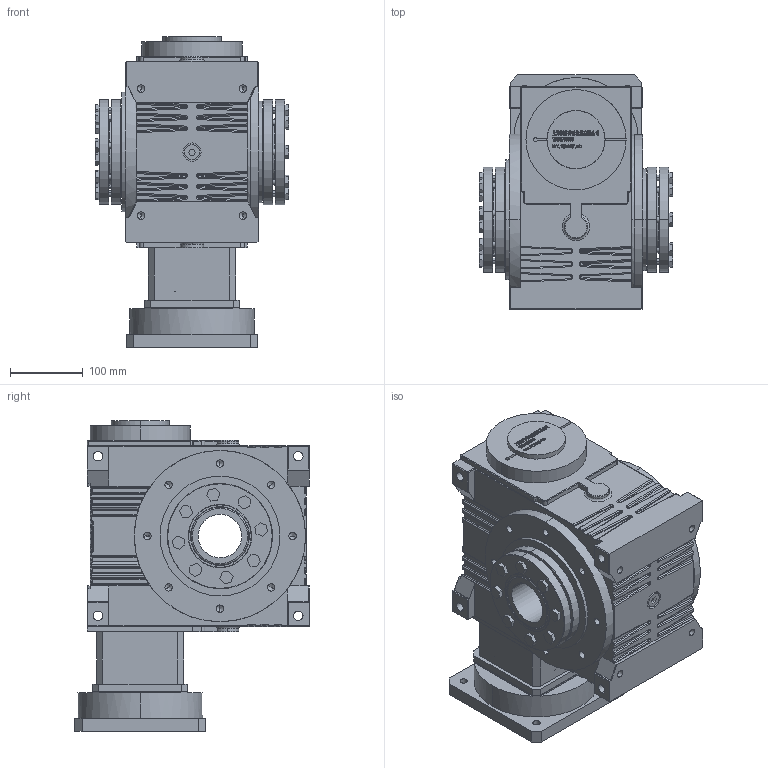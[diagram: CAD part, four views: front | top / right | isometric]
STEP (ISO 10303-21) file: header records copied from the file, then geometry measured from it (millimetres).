
FILE_DESCRIPTION (( 'STEP AP203' ), '1' );
FILE_NAME ('FXLB110-(5~90)-2C-35-114.3-200-M12.step', '2022-11-05T14:34:28', ( '' ), ( '' ), 'SwSTEP 2.0', 'SolidWorks 2020', '' );
FILE_SCHEMA (( 'CONFIG_CONTROL_DESIGN' ));
Length unit declared in the file: millimetre
Products named in the file (9): JDLB110-CR____.step; FXLB110-(5~90)-2C-35-114.3-200-M12; JDLB110-ST130________.step; ______BD68-73.3-32-35____.step; 錨璃173^FXLB110-(5~90)-2C-35-114.3-200-M12; JDLB110-2C________60.step; ST180-114.3-200-M12____________.step; JDLB110C1______-80-145-30.step; FXLB110-(5~90)-2C-35-114.3-200-M12.step
Assembly tree (9 placements, depth 3):
  FXLB110-(5~90)-2C-35-114.3-200-M12
    FXLB110-(5~90)-2C-35-114.3-200-M12.step
      JDLB110-CR____.step
      JDLB110-2C________60.step
      JDLB110-ST130________.step
      ST180-114.3-200-M12____________.step
      ______BD68-73.3-32-35____.step
      JDLB110C1______-80-145-30.step  x2
    錨璃173^FXLB110-(5~90)-2C-35-114.3-200-M12
Bounding box: 267 x 323 x 427.94 mm (x, y, z)
Volume: 15608354.2 mm3; surface area: 1101454 mm2
Topology: 85 solids, 85 shells, 3467 faces, 9010 edges, 5738 vertices
Faces by surface type: plane 1823, cylinder 741, bspline 582, torus 134, cone 105, sphere 82
Entity records: 127993 total; most frequent: CARTESIAN_POINT 50106, ORIENTED_EDGE 17024, DIRECTION 13997, EDGE_CURVE 8512, VERTEX_POINT 5504, VECTOR 5461, LINE 5461, AXIS2_PLACEMENT_3D 4268
